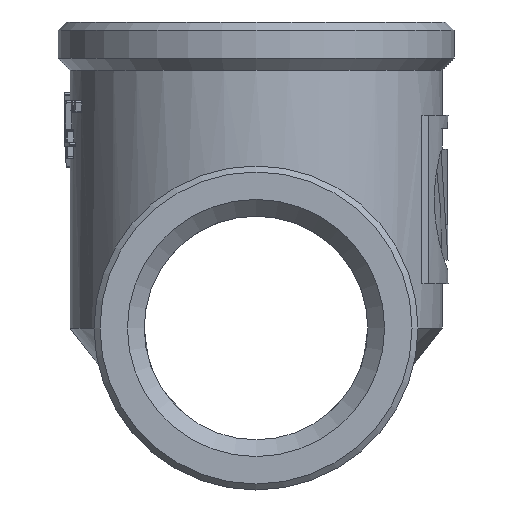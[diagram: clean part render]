
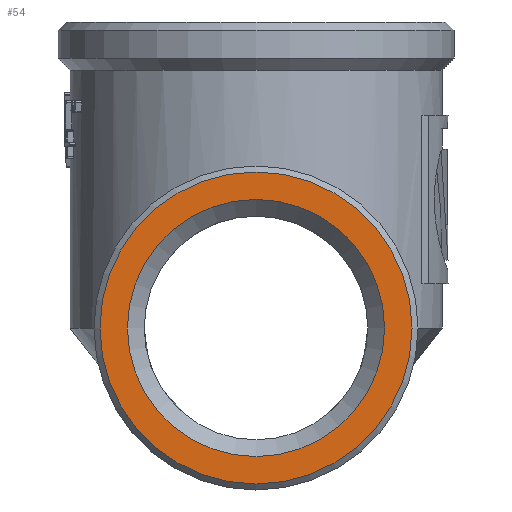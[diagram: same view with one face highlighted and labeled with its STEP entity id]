
A CAD part, front view. The second image highlights one B-rep face of the part: STEP entity #54.
In plain terms, the highlighted planar face has unit normal (0, -1, 0).
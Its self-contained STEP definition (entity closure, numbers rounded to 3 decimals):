
#54=ADVANCED_FACE('',(#454,#456),#458,.F.);
#454=FACE_BOUND('',#455,.T.);
#455=EDGE_LOOP('',(#2546));
#456=FACE_BOUND('',#457,.T.);
#457=EDGE_LOOP('',(#2547));
#458=PLANE('',#459);
#459=AXIS2_PLACEMENT_3D('',#460,#461,#462);
#460=CARTESIAN_POINT('',(0.,-26.5,0.));
#461=DIRECTION('',(0.,1.,0.));
#462=DIRECTION('',(-1.,0.,0.));
#2546=ORIENTED_EDGE('',*,*,#4858,.T.);
#2547=ORIENTED_EDGE('',*,*,#4855,.T.);
#4855=EDGE_CURVE('',#5754,#5754,#5755,.F.);
#4858=EDGE_CURVE('',#5760,#5760,#5761,.T.);
#5754=VERTEX_POINT('',#7726);
#5755=CIRCLE('',#7727,10.716);
#5760=VERTEX_POINT('',#7741);
#5761=CIRCLE('',#7742,13.);
#7726=CARTESIAN_POINT('',(10.716,-26.5,0.));
#7727=AXIS2_PLACEMENT_3D('',#7728,#7729,#7730);
#7728=CARTESIAN_POINT('',(0.,-26.5,0.));
#7729=DIRECTION('',(0.,-1.,0.));
#7730=DIRECTION('',(1.,0.,0.));
#7741=CARTESIAN_POINT('',(13.,-26.5,0.));
#7742=AXIS2_PLACEMENT_3D('',#7743,#7744,#7745);
#7743=CARTESIAN_POINT('',(0.,-26.5,0.));
#7744=DIRECTION('',(0.,-1.,0.));
#7745=DIRECTION('',(1.,0.,0.));
